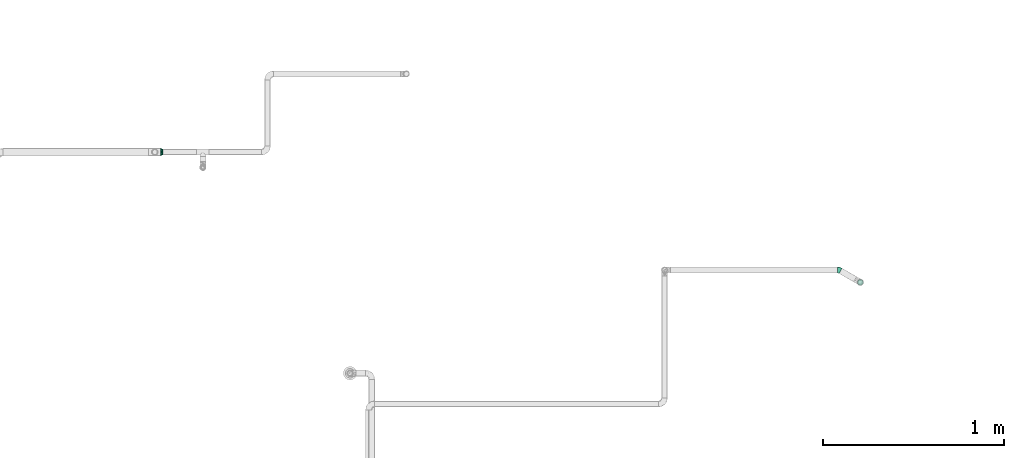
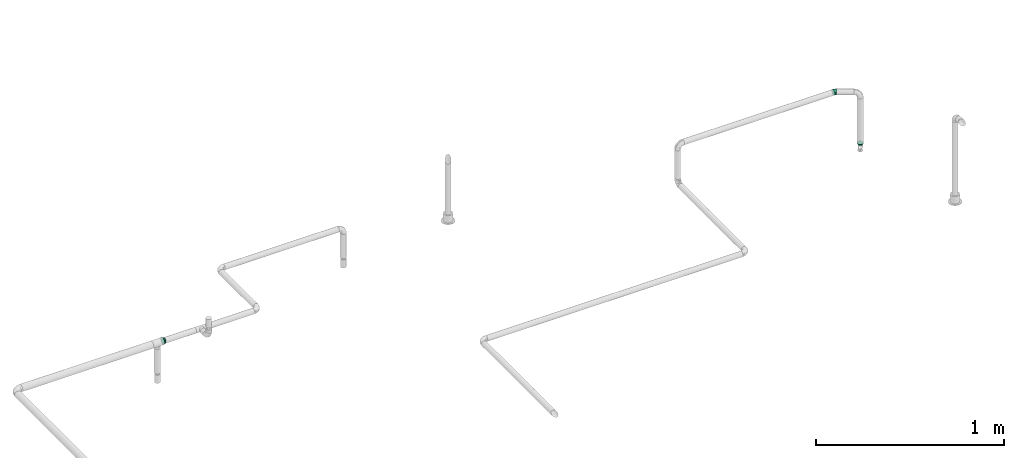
# One storey, part 92 of 95: 3 flow fittings.
"""IFC2X3 building model written with IfcOpenShell, lengths in millimetres."""

import ifcopenshell
import ifcopenshell.guid

model = None  # the IFC model being written
_history = None  # IfcOwnerHistory: only IFC2X3 demands one
_inside = {}  # id of a spatial element -> (the spatial element, [elements in it])
_under = {}  # id of a project, library or spatial element -> (it, [spatial elements below it])
_declared = {}  # id of a project -> (the project, [libraries it declares])
_typed = {}  # id of a type object -> (the type object, [elements of that type])
_made_of = {}  # id of a material, layer set ... -> (it, [elements and type objects made of it])


def new_model(schema):
    """Start an empty IFC model of exactly this schema.

    Asked for "IFC4X3", IfcOpenShell would pick the latest addendum, in which some entities
    have other attributes; the version numbers below select the first issue.
    IFC2X3 requires an IfcOwnerHistory on every rooted entity: one is made here for all.
    """
    global model, _history
    if schema == "IFC4X3":
        model = ifcopenshell.file(schema_version=(4, 3, 0, 0))
    else:
        model = ifcopenshell.file(schema=schema)
    _inside.clear()
    _under.clear()
    _declared.clear()
    _typed.clear()
    _made_of.clear()
    _history = None
    if model.schema == "IFC2X3":
        org = make("IfcOrganization", Name="unknown")
        user = make(
            "IfcPersonAndOrganization",
            ThePerson=make("IfcPerson", FamilyName="unknown"),
            TheOrganization=org,
        )
        app = make(
            "IfcApplication",
            ApplicationDeveloper=org,
            Version="unknown",
            ApplicationFullName="unknown",
            ApplicationIdentifier="unknown",
        )
        _history = make(
            "IfcOwnerHistory",
            OwningUser=user,
            OwningApplication=app,
            ChangeAction="ADDED",
            CreationDate=0,
        )
    return model


def make(cls, **values):
    """One entity of the class cls with the attributes given. An attribute that is None is left unset."""
    return model.create_entity(
        cls, **{name: value for name, value in values.items() if value is not None}
    )


def entity(cls, *values):
    """Any entity or typed value of the class cls, its attributes in the order of the schema. None: left unset."""
    e = model.create_entity(cls)
    for i, value in enumerate(values):
        if value is not None:
            e[i] = value
    return e


def rooted(cls, **values):
    """An entity with a GlobalId (a new one), such as an element, a storey or a relation."""
    return make(cls, GlobalId=ifcopenshell.guid.new(), OwnerHistory=_history, **values)


def si_unit(unit_type, name, prefix=None):
    """IfcSIUnit, for example si_unit("LENGTHUNIT", "METRE", prefix="MILLI")."""
    return make("IfcSIUnit", UnitType=unit_type, Prefix=prefix, Name=name)


def converted_unit(unit_type, name, factor, base, dimensions=None, offset=None):
    """IfcConversionBasedUnit, such as the inch: factor (a typed value) times the base unit."""
    return make(
        "IfcConversionBasedUnit"
        if offset is None
        else "IfcConversionBasedUnitWithOffset",
        ConversionOffset=offset,
        Dimensions=None
        if dimensions is None
        else entity("IfcDimensionalExponents", *dimensions),
        UnitType=unit_type,
        Name=name,
        ConversionFactor=make(
            "IfcMeasureWithUnit", ValueComponent=factor, UnitComponent=base
        ),
    )


def derived_unit(unit_type, elements):
    """IfcDerivedUnit: a product of units, each with its exponent."""
    return make(
        "IfcDerivedUnit",
        Elements=[
            make("IfcDerivedUnitElement", Unit=unit, Exponent=power)
            for unit, power in elements
        ],
        UnitType=unit_type,
    )


def assignment(units):
    """IfcUnitAssignment: the units of a project."""
    return None if units is None else make("IfcUnitAssignment", Units=units)


def point(xyz):
    """IfcCartesianPoint."""
    return None if xyz is None else make("IfcCartesianPoint", Coordinates=xyz)


def direction(xyz):
    """IfcDirection."""
    return None if xyz is None else make("IfcDirection", DirectionRatios=xyz)


def frame(location, z_axis=None, x_axis=None):
    """IfcAxis2Placement3D, a coordinate frame: its origin and axes. An axis left out is left unset."""
    return make(
        "IfcAxis2Placement3D",
        Location=point(location),
        Axis=direction(z_axis),
        RefDirection=direction(x_axis),
    )


def origin_with_axes():
    """The frame at (0, 0, 0) with the z axis (0, 0, 1) and the x axis (1, 0, 0) written out."""
    return frame((0.0, 0.0, 0.0), z_axis=(0.0, 0.0, 1.0), x_axis=(1.0, 0.0, 0.0))


def place(relative_to, where):
    """IfcLocalPlacement: puts the frame where relative to a parent placement (None: the world)."""
    return make(
        "IfcLocalPlacement", PlacementRelTo=relative_to, RelativePlacement=where
    )


def context(
    kind, dimensions, precision=None, world=None, true_north=None, identifier=None
):
    """IfcGeometricRepresentationContext, for example the 3D "Model" context."""
    return make(
        "IfcGeometricRepresentationContext",
        ContextIdentifier=identifier,
        ContextType=kind,
        CoordinateSpaceDimension=dimensions,
        Precision=precision,
        WorldCoordinateSystem=world,
        TrueNorth=true_north,
    )


def subcontext(parent, identifier, kind, view, scale=None):
    """IfcGeometricRepresentationSubContext, for example "Body" below "Model"."""
    return make(
        "IfcGeometricRepresentationSubContext",
        ContextIdentifier=identifier,
        ContextType=kind,
        ParentContext=parent,
        TargetScale=scale,
        TargetView=view,
    )


def project(units=None, contexts=None):
    """IfcProject with its units and contexts."""
    return rooted(
        "IfcProject",
        Name="project",
        RepresentationContexts=contexts,
        UnitsInContext=assignment(units),
    )


def spatial(cls, under=None, at=None, **own):
    """A site, building, storey or space (cls), placed at a placement, below another one or the project."""
    s = rooted(cls, ObjectPlacement=at, **own)
    if under is not None:
        _under.setdefault(under.id(), (under, []))[1].append(s)
    return s


def faces_of(points, faces, orient=None, outer=None):
    """IfcFace entities. A face is a list of loops; a loop is a list of indices into points, from 0.

    orient and outer hold one flag for each loop. By default every Orientation is true, the
    first loop of a face is its IfcFaceOuterBound and the others are IfcFaceBound.
    """
    made = []
    for i, loops in enumerate(faces):
        bounds = []
        for j, loop in enumerate(loops):
            is_outer = j == 0 if outer is None else outer[i][j]
            bounds.append(
                make(
                    "IfcFaceOuterBound" if is_outer else "IfcFaceBound",
                    Bound=make("IfcPolyLoop", Polygon=[points[k] for k in loop]),
                    Orientation=True if orient is None else orient[i][j],
                )
            )
        made.append(make("IfcFace", Bounds=bounds))
    return made


def open_shell(faces, orient=None, outer=None):
    """The faces of one IfcOpenShell. surface_model builds it on its shared points."""
    return ("IfcOpenShell", faces, orient, outer)


def surface_model(cls, points, shells):
    """IfcFaceBasedSurfaceModel or IfcShellBasedSurfaceModel (cls): surfaces that need not close."""
    shared = [point(p) for p in points]
    made = [make(c, CfsFaces=faces_of(shared, fs, o, b)) for c, fs, o, b in shells]
    if cls == "IfcFaceBasedSurfaceModel":
        return make(cls, FbsmFaces=made)
    return make(cls, SbsmBoundary=made)


def shape(context_of_items, identifier, shape_type, items):
    """IfcShapeRepresentation: the items that make up one representation, for example the "Body"."""
    return make(
        "IfcShapeRepresentation",
        ContextOfItems=context_of_items,
        RepresentationIdentifier=identifier,
        RepresentationType=shape_type,
        Items=items,
    )


def source(mapping_origin, context_of_items, identifier, shape_type, items):
    """IfcRepresentationMap: a shape defined once, which mapped items show again and again."""
    return make(
        "IfcRepresentationMap",
        MappingOrigin=mapping_origin,
        MappedRepresentation=shape(context_of_items, identifier, shape_type, items),
    )


def transform(
    local_origin,
    x_axis=None,
    y_axis=None,
    z_axis=None,
    scale=None,
    scale2=None,
    scale3=None,
    uniform=True,
):
    """IfcCartesianTransformationOperator3D, or its non-uniform kind. x_axis, y_axis, z_axis: its Axis1, 2, 3."""
    if uniform:
        return make(
            "IfcCartesianTransformationOperator3D",
            Axis1=direction(x_axis),
            Axis2=direction(y_axis),
            LocalOrigin=point(local_origin),
            Scale=scale,
            Axis3=direction(z_axis),
        )
    return make(
        "IfcCartesianTransformationOperator3DnonUniform",
        Axis1=direction(x_axis),
        Axis2=direction(y_axis),
        LocalOrigin=point(local_origin),
        Scale=scale,
        Axis3=direction(z_axis),
        Scale2=scale2,
        Scale3=scale3,
    )


def mapped(mapping_source, mapping_target):
    """IfcMappedItem: shows the shape of a source again, moved by a transform."""
    return make(
        "IfcMappedItem", MappingSource=mapping_source, MappingTarget=mapping_target
    )


def made_of(thing, what):
    """Note that an element or type object is made of a material, layer set ...; save() writes the relation."""
    if what is not None:
        _made_of.setdefault(what.id(), (what, []))[1].append(thing)
    return thing


def type_object(cls, material=None, **own):
    """A type object (cls), such as IfcWallType, which elements share."""
    return made_of(rooted(cls, **own), material)


def element(
    cls,
    number,
    at=None,
    inside=None,
    cuts=None,
    type_object=None,
    material=None,
    context=None,
    identifier="Body",
    shape_type=None,
    held_by="IfcProductDefinitionShape",
    body=None,
    shapes=None,
    **own,
):
    """One element of the class cls, such as IfcWall. Its Tag is "e" and its number.

    at: its placement. inside: the storey or other place that contains it. cuts: it is an
    opening in that element (IfcRelVoidsElement). A single representation is given by context,
    identifier, shape_type and body (its items); several are given by shapes. held_by: the class
    of the entity that holds the representations. save() writes the other relations.
    """
    e = rooted(cls, Tag="e%d" % number, ObjectPlacement=at, **own)
    if body is not None:
        shapes = [shape(context, identifier, shape_type, body)]
    if shapes is not None:
        e.Representation = make(held_by, Representations=shapes)
    if inside is not None:
        _inside.setdefault(inside.id(), (inside, []))[1].append(e)
    if cuts is not None:
        rooted(
            "IfcRelVoidsElement", RelatingBuildingElement=cuts, RelatedOpeningElement=e
        )
    if type_object is not None:
        _typed.setdefault(type_object.id(), (type_object, []))[1].append(e)
    return made_of(e, material)


def aggregate(whole, parts):
    """IfcRelAggregates: a whole, such as a stair, and the parts it consists of."""
    return rooted("IfcRelAggregates", RelatingObject=whole, RelatedObjects=parts)


def save(model, path):
    """Write the relations noted so far, then the file.

    IfcRelAggregates (storeys below a building ...), IfcRelContainedInSpatialStructure (elements
    in a storey), IfcRelDefinesByType, IfcRelAssociatesMaterial and IfcRelDeclares: one each for
    every whole, place, type object, material and project.
    """
    for whole, parts in _under.values():
        aggregate(whole, parts)
    for where, things in _inside.values():
        rooted(
            "IfcRelContainedInSpatialStructure",
            RelatedElements=things,
            RelatingStructure=where,
        )
    for kind, things in _typed.values():
        rooted("IfcRelDefinesByType", RelatedObjects=things, RelatingType=kind)
    for what, things in _made_of.values():
        rooted("IfcRelAssociatesMaterial", RelatedObjects=things, RelatingMaterial=what)
    for by, libraries in _declared.values():
        rooted("IfcRelDeclares", RelatingContext=by, RelatedDefinitions=libraries)
    model.write(path)


model = new_model("IFC2X3")

# Units and contexts
model_context = context("Model", 3, precision=0.01, world=frame((0.0, 4.29681676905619e-09, 0.0)), true_north=direction((4.01073788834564e-13, 1.0)))
plan_context = context("Plan", 3, precision=0.01, world=frame((0.0, 4.29681676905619e-09, 0.0)), true_north=direction((4.01073788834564e-13, 1.0)))
body_context = subcontext(model_context, "Body", "Model", "MODEL_VIEW")
ifc_project = project(units=[converted_unit("PLANEANGLEUNIT", "DEGREE", entity("IfcPositiveLengthMeasure", 0.0174532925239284), si_unit("PLANEANGLEUNIT", "RADIAN"), dimensions=[0, 0, 0, 0, 0, 0, 0]), si_unit("AREAUNIT", "SQUARE_METRE"), si_unit("LENGTHUNIT", "METRE", prefix="MILLI"), si_unit("MASSUNIT", "GRAM", prefix="KILO"), si_unit("POWERUNIT", "WATT"), si_unit("PRESSUREUNIT", "PASCAL"), si_unit("FORCEUNIT", "NEWTON", prefix="KILO"), si_unit("ELECTRICVOLTAGEUNIT", "VOLT"), si_unit("ELECTRICCURRENTUNIT", "AMPERE"), si_unit("THERMODYNAMICTEMPERATUREUNIT", "DEGREE_CELSIUS"), si_unit("TIMEUNIT", "SECOND"), si_unit("VOLUMEUNIT", "CUBIC_METRE"), derived_unit("LINEARVELOCITYUNIT", [(si_unit("LENGTHUNIT", "METRE"), 1), (si_unit("TIMEUNIT", "SECOND"), -1)]), derived_unit("VOLUMETRICFLOWRATEUNIT", [(si_unit("VOLUMEUNIT", "CUBIC_METRE"), 1), (si_unit("TIMEUNIT", "SECOND"), -1)]), derived_unit("THERMALTRANSMITTANCEUNIT", [(si_unit("POWERUNIT", "WATT"), 1), (si_unit("THERMODYNAMICTEMPERATUREUNIT", "KELVIN"), -1), (si_unit("AREAUNIT", "SQUARE_METRE"), -1)]), derived_unit("SOUNDPRESSUREUNIT", [(si_unit("PRESSUREUNIT", "PASCAL"), 1)])], contexts=[model_context, plan_context])

# Site, building, storey
site_placement = place(None, frame((0.0, -4.29681676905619e-09, 0.0), z_axis=(0.0, 0.0, 1.0), x_axis=(1.0, 0.0, 0.0)))
site = spatial("IfcSite", under=ifc_project, at=site_placement, CompositionType="ELEMENT")
building_placement = place(site_placement, frame((0.0, 4.29681676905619e-09, 0.0), z_axis=(0.0, 0.0, 1.0), x_axis=(1.0, 0.0, 0.0)))
building = spatial("IfcBuilding", under=site, at=building_placement, Name="mc-building", CompositionType="ELEMENT")
storey_placement = place(building_placement, frame((0.0, 0.0, 210900.0), z_axis=(0.0, 0.0, 1.0), x_axis=(1.0, 0.0, 0.0)))
storey = spatial("IfcBuildingStorey", under=building, at=storey_placement, Name="Nivå F", CompositionType="ELEMENT", Elevation=210900.0)

# Flow fittings
pipe_fitting_type_1 = type_object("IfcPipeFittingType", Name="magi_pipe_fe_reducer_centric_short_NOR", PredefinedType="TRANSITION")
shared_shape_1 = source(origin_with_axes(), body_context, "Body", "SurfaceModel", [
    surface_model("IfcShellBasedSurfaceModel", [(10.6, -11.9501, -11.9501), (10.6, -8.45, -14.63583), (10.6, -4.37404, -16.32415), (10.6, 8.45, -14.63583), (10.6, 16.9, 0.0), (10.6, -14.63583, -8.45), (10.6, -16.32415, -4.37404), (10.6, -4.37404, 16.32415), (10.6, 4.37404, -16.32415), (10.6, 0.0, -16.9), (10.6, 14.63583, -8.45), (10.6, 16.32415, -4.37404), (10.6, 11.9501, -11.9501), (10.6, -16.32415, 4.37404), (10.6, -16.9, 0.0), (10.6, -11.9501, 11.9501), (10.6, -14.63583, 8.45), (10.6, -8.45, 14.63583), (10.6, 0.0, 16.9), (10.6, 16.32415, 4.37404), (10.6, 14.63583, 8.45), (10.6, 11.9501, 11.9501), (10.6, 8.45, 14.63583), (10.6, 4.37404, 16.32415), (8.6, 0.0, 16.9), (8.6, 14.63583, 8.45), (8.6, -4.37404, 16.32415), (8.6, -8.45, 14.63583), (8.6, -16.32415, 4.37404), (8.6, -14.63583, 8.45), (8.6, -11.9501, 11.9501), (8.6, 11.9501, 11.9501), (8.6, 8.45, 14.63583), (8.6, 4.37404, 16.32415), (8.6, 16.32415, 4.37404), (8.6, 16.9, 0.0), (8.6, 16.32415, -4.37404), (8.6, 8.45, -14.63583), (8.6, -11.9501, -11.9501), (8.6, -16.32415, -4.37404), (8.6, -14.63583, -8.45), (8.6, -4.37404, -16.32415), (8.6, -8.45, -14.63583), (8.6, 14.63583, -8.45), (8.6, 11.9501, -11.9501), (8.6, 4.37404, -16.32415), (8.6, 0.0, -16.9), (8.6, -16.9, 0.0), (-2.0, -10.6, 18.35974), (-2.0, -5.48696, 20.47763), (-2.0, 0.0, 21.2), (-2.0, -14.99066, 14.99066), (-2.0, -20.47763, 5.48696), (-2.0, -18.35974, 10.6), (-2.0, 14.99066, -14.99066), (-2.0, 21.2, 0.0), (-2.0, 10.6, 18.35974), (-2.0, 14.99066, 14.99066), (-2.0, 5.48696, 20.47763), (-2.0, 20.47763, 5.48696), (-2.0, 18.35974, 10.6), (-2.0, -10.6, -18.35974), (-2.0, -20.47763, -5.48696), (-2.0, -18.35974, -10.6), (-2.0, -14.99066, -14.99066), (-2.0, 0.0, -21.2), (-2.0, -5.48696, -20.47763), (-2.0, 20.47763, -5.48696), (-2.0, 18.35974, -10.6), (-2.0, 5.48696, -20.47763), (-2.0, 10.6, -18.35974), (-2.0, -21.2, 0.0), (0.0, -5.48696, -20.47763), (0.0, 0.0, -21.2), (0.0, -10.6, -18.35974), (0.0, -14.99066, -14.99066), (0.0, -20.47763, -5.48696), (0.0, 21.2, 0.0), (0.0, -18.35974, -10.6), (0.0, 14.99066, -14.99066), (0.0, 5.48696, -20.47763), (0.0, 10.6, -18.35974), (0.0, 20.47763, -5.48696), (0.0, 18.35974, -10.6), (0.0, -21.2, 0.0), (0.0, -14.99066, 14.99066), (0.0, -18.35974, 10.6), (0.0, -20.47763, 5.48696), (0.0, 0.0, 21.2), (0.0, -5.48696, 20.47763), (0.0, -10.6, 18.35974), (0.0, 14.99066, 14.99066), (0.0, 20.47763, 5.48696), (0.0, 18.35974, 10.6), (0.0, 10.6, 18.35974), (0.0, 5.48696, 20.47763), (0.0, 17.15116, 12.46105), (0.0, -17.15116, 12.46105), (0.0, 6.55116, 20.1624), (0.0, -6.55116, 20.1624), (0.0, 6.55116, -20.1624), (0.0, -6.55116, -20.1624), (0.0, 17.15116, -12.46105), (0.0, -17.15116, -12.46105), (8.6, 13.18758, -8.96258), (8.6, 2.98753, -15.66253), (0.0, 0.0, -20.1624), (0.0, 18.16337, -9.34579), (0.0, 19.17558, -6.23052), (8.6, 14.42505, -5.97505), (8.6, -5.97505, -14.42505), (8.6, -8.96258, -13.18758), (0.0, -11.85116, -16.31172), (8.6, -2.98753, -15.66253), (8.6, -13.18758, -8.96258), (8.6, -14.42505, -5.97505), (0.0, -19.17558, -6.23052), (8.6, -15.66253, -2.98753), (8.6, 15.66253, -2.98753), (0.0, 11.85116, -16.31172), (8.6, 8.96258, -13.18758), (8.6, 5.97505, -14.42505), (8.6, -13.18758, 8.96258), (8.6, -2.98753, 15.66253), (0.0, 0.0, 20.1624), (0.0, -18.16337, 9.34579), (0.0, -19.17558, 6.23052), (8.6, -14.42505, 5.97505), (8.6, 5.97505, 14.42505), (8.6, 8.96258, 13.18758), (0.0, 11.85116, 16.31172), (8.6, 2.98753, 15.66253), (8.6, 13.18758, 8.96258), (8.6, 14.42505, 5.97505), (0.0, 19.17558, 6.23052), (8.6, 15.66253, 2.98753), (8.6, -15.66253, 2.98753), (0.0, -11.85116, 16.31172), (8.6, -8.96258, 13.18758), (8.6, -5.97505, 14.42505)], [open_shell([[[0, 1, 2]], [[0, 2, 3]], [[3, 4, 0]], [[5, 0, 6]], [[0, 7, 6]], [[8, 3, 9]], [[3, 2, 9]], [[10, 11, 12]], [[3, 12, 11]], [[11, 4, 3]], [[13, 14, 6]], [[15, 16, 13]], [[7, 15, 13]], [[0, 4, 7]], [[17, 15, 7]], [[18, 7, 4]], [[19, 20, 18]], [[18, 4, 19]], [[21, 22, 20]], [[22, 18, 20]], [[23, 18, 22]], [[13, 6, 7]], [[24, 25, 26]], [[27, 26, 28]], [[28, 29, 30]], [[27, 28, 30]], [[28, 26, 25]], [[31, 25, 32]], [[24, 33, 32]], [[32, 25, 24]], [[28, 25, 34]], [[35, 36, 34]], [[37, 28, 34]], [[38, 39, 28]], [[40, 39, 38]], [[41, 42, 38]], [[38, 28, 37]], [[38, 37, 41]], [[43, 44, 36]], [[37, 36, 44]], [[45, 46, 37]], [[37, 34, 36]], [[37, 46, 41]], [[47, 28, 39]], [[35, 11, 36]], [[36, 10, 43]], [[37, 44, 3]], [[12, 44, 43]], [[45, 37, 8]], [[11, 10, 36]], [[35, 4, 11]], [[37, 3, 8]], [[3, 44, 12]], [[43, 10, 12]], [[45, 8, 9]], [[9, 46, 45]], [[46, 2, 41]], [[41, 1, 42]], [[40, 38, 5]], [[0, 38, 42]], [[39, 40, 6]], [[1, 0, 42]], [[41, 2, 1]], [[39, 6, 14]], [[6, 40, 5]], [[38, 0, 5]], [[39, 14, 47]], [[9, 2, 46]], [[47, 13, 28]], [[28, 16, 29]], [[27, 30, 17]], [[15, 30, 29]], [[26, 27, 7]], [[13, 16, 28]], [[47, 14, 13]], [[27, 17, 7]], [[17, 30, 15]], [[29, 16, 15]], [[26, 7, 18]], [[18, 24, 26]], [[24, 23, 33]], [[33, 22, 32]], [[25, 31, 20]], [[21, 31, 32]], [[34, 25, 19]], [[22, 21, 32]], [[33, 23, 22]], [[34, 19, 4]], [[19, 25, 20]], [[31, 21, 20]], [[34, 4, 35]], [[18, 23, 24]], [[48, 49, 50]], [[51, 48, 50]], [[52, 53, 51]], [[50, 52, 51]], [[54, 50, 55]], [[56, 57, 58]], [[57, 50, 58]], [[59, 55, 60]], [[50, 57, 60]], [[50, 60, 55]], [[54, 52, 50]], [[61, 62, 52]], [[63, 62, 64]], [[61, 52, 54]], [[64, 62, 61]], [[61, 65, 66]], [[67, 68, 55]], [[55, 68, 54]], [[69, 65, 70]], [[61, 54, 70]], [[61, 70, 65]], [[71, 52, 62]], [[72, 73, 74]], [[75, 74, 76]], [[77, 76, 74]], [[78, 75, 76]], [[74, 79, 77]], [[80, 81, 73]], [[81, 74, 73]], [[82, 77, 83]], [[79, 74, 81]], [[77, 79, 83]], [[76, 77, 84]], [[85, 86, 87]], [[88, 85, 87]], [[88, 89, 90]], [[85, 88, 90]], [[91, 88, 87]], [[92, 93, 77]], [[91, 77, 93]], [[94, 95, 91]], [[87, 77, 91]], [[91, 95, 88]], [[84, 77, 87]], [[55, 82, 67]], [[67, 83, 68]], [[70, 54, 81]], [[79, 54, 68]], [[69, 70, 80]], [[82, 83, 67]], [[55, 77, 82]], [[70, 81, 80]], [[81, 54, 79]], [[68, 83, 79]], [[69, 80, 73]], [[73, 65, 69]], [[65, 72, 66]], [[66, 74, 61]], [[63, 64, 78]], [[75, 64, 61]], [[62, 63, 76]], [[74, 75, 61]], [[66, 72, 74]], [[62, 76, 84]], [[76, 63, 78]], [[64, 75, 78]], [[62, 84, 71]], [[73, 72, 65]], [[71, 87, 52]], [[52, 86, 53]], [[48, 51, 90]], [[85, 51, 53]], [[49, 48, 89]], [[87, 86, 52]], [[71, 84, 87]], [[48, 90, 89]], [[90, 51, 85]], [[53, 86, 85]], [[49, 89, 88]], [[88, 50, 49]], [[50, 95, 58]], [[58, 94, 56]], [[60, 57, 93]], [[91, 57, 56]], [[59, 60, 92]], [[94, 91, 56]], [[58, 95, 94]], [[59, 92, 77]], [[92, 60, 93]], [[57, 91, 93]], [[59, 77, 55]], [[88, 95, 50]], [[30, 35, 31]], [[31, 24, 30]], [[30, 38, 35]], [[46, 35, 38]], [[38, 30, 47]], [[44, 35, 46]], [[96, 84, 97]], [[98, 96, 99]], [[97, 99, 96]], [[96, 100, 84]], [[84, 100, 101]], [[96, 77, 102]], [[102, 100, 96]], [[84, 101, 103]], [[104, 44, 102]], [[100, 105, 106]], [[107, 108, 109]], [[110, 111, 112]], [[38, 103, 112]], [[112, 101, 110]], [[46, 113, 106]], [[114, 115, 103]], [[106, 113, 101]], [[116, 117, 84]], [[35, 118, 77]], [[119, 102, 44]], [[120, 121, 119]], [[118, 108, 77]], [[113, 110, 101]], [[100, 121, 105]], [[116, 103, 115]], [[46, 106, 105]], [[103, 38, 114]], [[47, 84, 117]], [[108, 118, 109]], [[107, 104, 102]], [[107, 109, 104]], [[111, 38, 112]], [[100, 119, 121]], [[119, 44, 120]], [[116, 115, 117]], [[122, 30, 97]], [[99, 123, 124]], [[125, 126, 127]], [[128, 129, 130]], [[31, 96, 130]], [[130, 98, 128]], [[24, 131, 124]], [[132, 133, 96]], [[124, 131, 98]], [[134, 135, 77]], [[47, 136, 84]], [[137, 97, 30]], [[138, 139, 137]], [[136, 126, 84]], [[131, 128, 98]], [[99, 139, 123]], [[134, 96, 133]], [[24, 124, 123]], [[96, 31, 132]], [[35, 77, 135]], [[126, 136, 127]], [[125, 122, 97]], [[125, 127, 122]], [[129, 31, 130]], [[99, 137, 139]], [[137, 30, 138]], [[134, 133, 135]]])]),
])
flow_fitting_1_placement = place(storey_placement, frame((521633.8, 456820.05824, 2600.0), z_axis=(0.0, 0.0, 1.0), x_axis=(1.0, 0.0, 0.0)))
element("IfcFlowFitting", 1, at=flow_fitting_1_placement, inside=storey, type_object=pipe_fitting_type_1, Name="magi_pipe_fe_reducer_centric_short_NOR", context=body_context, shape_type="MappedRepresentation", body=[
    mapped(shared_shape_1, transform((0.0, 0.0, 0.0), scale=1.0)),
])
pipe_fitting_type_2 = type_object("IfcPipeFittingType", Name="magi_pipe_fe_elbow_short_001", PredefinedType="BEND")
shared_shape_2 = source(origin_with_axes(), body_context, "Body", "SurfaceModel", [
    surface_model("IfcShellBasedSurfaceModel", [(-9.05668, 4.37404, -16.32415), (-9.05668, 0.0, -16.9), (-9.05668, 11.9501, -11.9501), (-9.05668, 8.45, -14.63583), (-9.05668, 16.32415, -4.37404), (-9.05668, 14.63583, -8.45), (-9.05668, -14.63583, -8.45), (-9.05668, -16.32415, -4.37404), (-9.05668, -8.45, 14.63583), (-9.05668, -11.9501, -11.9501), (-9.05668, -8.45, -14.63583), (-9.05668, -4.37404, -16.32415), (-9.05668, -16.9, 0.0), (-9.05668, -16.32415, 4.37404), (-9.05668, 11.9501, 11.9501), (-9.05668, 16.32415, 4.37404), (-9.05668, 14.63583, 8.45), (-9.05668, 4.37404, 16.32415), (-9.05668, 8.45, 14.63583), (-9.05668, -14.63583, 8.45), (-9.05668, -11.9501, 11.9501), (-9.05668, -4.37404, 16.32415), (-9.05668, 0.0, 16.9), (-9.05668, 16.9, 0.0), (1.86826, 14.87744, -11.9501), (7.84332, 4.52834, -16.9), (5.6563, 8.31637, -16.32415), (3.61832, 11.84626, -14.63583), (13.81837, -5.82075, 11.9501), (13.81837, -5.82075, -11.9501), (0.5254, 17.20334, -8.45), (-0.31876, 18.66547, 4.37404), (12.06832, -2.78957, -14.63583), (10.03034, 0.74031, -16.32415), (16.00539, -9.60878, -4.37404), (15.16123, -8.14666, -8.45), (16.29332, -10.10749, 0.0), (-0.31876, 18.66547, -4.37404), (0.5254, 17.20334, 8.45), (7.84332, 4.52834, 16.9), (1.86826, 14.87744, 11.9501), (3.61832, 11.84626, 14.63583), (5.6563, 8.31637, 16.32415), (15.16123, -8.14666, 8.45), (16.00539, -9.60878, 4.37404), (12.06832, -2.78957, 14.63583), (10.03034, 0.74031, 16.32415), (-0.60668, 19.16417, 0.0), (3.23521, -12.07397, 9.90621), (-0.48789, -9.71244, 13.20405), (1.46394, -5.46351, 15.45014), (-1.16447, -1.65592, 16.71051), (-0.25358, -14.95401, 6.14714), (0.04142, -15.78331, 3.11142), (6.38384, -14.18247, 3.14056), (-0.78874, 2.94362, 16.79787), (-3.7372, 13.94741, 10.49403), (-2.91102, 10.86407, 13.58335), (7.22684, -7.3825, 13.25433), (-1.86952, 7.12082, 15.73356), (-4.68264, 17.47585, 0.0), (4.06544, -15.17244, 0.0), (8.50881, -13.33194, 0.0), (-0.70288, -15.8002, 0.0), (8.57421, -12.48464, 6.18145), (0.36072, -1.34624, -16.70097), (-1.44643, 2.8041, -16.79471), (3.63907, -4.72834, -15.48641), (-3.7372, 13.94741, -10.49403), (3.06368, -14.28622, -6.02326), (-2.97781, -15.70986, -5.19525), (-1.78766, -13.01495, -10.06499), (-2.91102, 10.86407, -13.58335), (9.6373, -11.74228, -6.8945), (8.7907, -13.22114, -3.68077), (6.65872, -10.92984, -10.01853), (-1.93995, -7.69395, -14.72151), (2.44469, -9.12372, -13.13183), (-1.97602, 7.09389, -15.73298), (1.57235, -15.49787, -3.00494), (-0.70289, -15.8002, 0.0)], [open_shell([[[0, 1, 2]], [[3, 0, 2]], [[4, 5, 2]], [[6, 2, 1]], [[2, 7, 8]], [[9, 6, 10]], [[1, 11, 10]], [[1, 10, 6]], [[6, 7, 2]], [[12, 13, 7]], [[4, 2, 14]], [[14, 15, 4]], [[16, 15, 14]], [[17, 18, 14]], [[2, 8, 14]], [[17, 14, 8]], [[19, 20, 13]], [[13, 20, 7]], [[21, 22, 8]], [[20, 8, 7]], [[8, 22, 17]], [[23, 4, 15]], [[24, 25, 26]], [[24, 26, 27]], [[28, 29, 24]], [[24, 29, 25]], [[30, 31, 24]], [[25, 32, 33]], [[25, 29, 32]], [[29, 34, 35]], [[29, 28, 34]], [[34, 28, 36]], [[37, 31, 30]], [[28, 24, 31]], [[38, 39, 31]], [[40, 41, 42]], [[38, 40, 39]], [[40, 42, 39]], [[36, 43, 44]], [[28, 43, 36]], [[45, 39, 46]], [[39, 45, 28]], [[31, 39, 28]], [[37, 47, 31]], [[19, 48, 20]], [[49, 50, 8]], [[8, 20, 49]], [[43, 28, 48]], [[22, 21, 51]], [[21, 8, 50]], [[52, 53, 54]], [[51, 55, 22]], [[22, 55, 17]], [[39, 42, 55]], [[48, 19, 52]], [[45, 46, 50]], [[14, 56, 16]], [[57, 14, 18]], [[58, 48, 28]], [[20, 48, 49]], [[17, 59, 18]], [[60, 15, 31]], [[19, 13, 52]], [[60, 23, 15]], [[31, 15, 16]], [[21, 50, 51]], [[17, 55, 59]], [[57, 59, 41]], [[53, 61, 54]], [[62, 54, 61]], [[51, 39, 55]], [[45, 58, 28]], [[12, 63, 53]], [[51, 46, 39]], [[48, 58, 49]], [[52, 64, 48]], [[40, 38, 56]], [[49, 58, 50]], [[50, 58, 45]], [[36, 44, 62]], [[13, 53, 52]], [[57, 56, 14]], [[38, 31, 16]], [[47, 60, 31]], [[54, 44, 64]], [[48, 64, 43]], [[44, 54, 62]], [[42, 59, 55]], [[41, 40, 57]], [[40, 56, 57]], [[12, 53, 13]], [[16, 56, 38]], [[42, 41, 59]], [[59, 57, 18]], [[52, 54, 64]], [[43, 64, 44]], [[61, 53, 63]], [[46, 51, 50]], [[1, 65, 11]], [[25, 66, 26]], [[33, 32, 67]], [[65, 1, 66]], [[68, 2, 5]], [[69, 70, 71]], [[2, 68, 72]], [[73, 34, 74]], [[37, 5, 4]], [[29, 35, 75]], [[76, 67, 77]], [[0, 78, 66]], [[79, 70, 69]], [[6, 70, 7]], [[79, 7, 70]], [[71, 70, 6]], [[9, 10, 76]], [[26, 78, 27]], [[6, 9, 71]], [[67, 76, 11]], [[78, 72, 27]], [[72, 68, 24]], [[77, 71, 9]], [[4, 23, 60]], [[36, 74, 34]], [[60, 47, 37]], [[30, 68, 5]], [[73, 75, 35]], [[37, 30, 5]], [[68, 30, 24]], [[71, 77, 75]], [[26, 66, 78]], [[11, 65, 67]], [[1, 0, 66]], [[2, 72, 3]], [[78, 0, 3]], [[65, 66, 25]], [[33, 67, 65]], [[32, 77, 67]], [[72, 78, 3]], [[77, 32, 29]], [[74, 79, 69]], [[69, 71, 75]], [[79, 74, 61]], [[36, 62, 74]], [[29, 75, 77]], [[24, 27, 72]], [[33, 65, 25]], [[74, 62, 61]], [[4, 60, 37]], [[73, 74, 69]], [[75, 73, 69]], [[34, 73, 35]], [[9, 76, 77]], [[11, 76, 10]], [[7, 79, 80]], [[80, 12, 7]], [[80, 79, 61]]])]),
])
flow_fitting_2_placement = place(storey_placement, frame((525380.97009, 456168.04949, 3300.0), z_axis=(0.0, 0.0, 1.0), x_axis=(-0.866025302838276, 0.500000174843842, 0.0)))
element("IfcFlowFitting", 2, at=flow_fitting_2_placement, inside=storey, type_object=pipe_fitting_type_2, Name="magi_pipe_fe_elbow_short_001", context=body_context, shape_type="MappedRepresentation", body=[
    mapped(shared_shape_2, transform((0.0, 0.0, 0.0), scale=1.0)),
])
shared_shape_3 = source(origin_with_axes(), body_context, "Body", "SurfaceModel", [
    surface_model("IfcShellBasedSurfaceModel", [(-2.0, -9.47523, 9.47523), (-2.0, 0.0, 13.4), (-2.0, 3.46818, 12.94341), (-2.0, 6.7, 11.60474), (-2.0, 9.47523, 9.47523), (-2.0, 11.60474, 6.7), (-2.0, 12.94341, 3.46818), (-2.0, -3.46818, 12.94341), (-2.0, -6.7, 11.60474), (-2.0, -12.94341, 3.46818), (-2.0, -11.60474, 6.7), (-2.0, -6.7, -11.60474), (-2.0, -12.94341, -3.46818), (-2.0, -13.4, 0.0), (-2.0, 12.94341, -3.46818), (-2.0, 6.7, -11.60474), (-2.0, 9.47523, -9.47523), (-2.0, 11.60474, -6.7), (-2.0, 3.46818, -12.94341), (-2.0, 0.0, -13.4), (-2.0, -9.47523, -9.47523), (-2.0, -11.60474, -6.7), (-2.0, -3.46818, -12.94341), (-2.0, 13.4, 0.0), (0.0, 12.94341, -3.46818), (0.0, 3.46818, -12.94341), (0.0, 6.7, -11.60474), (0.0, 11.60474, -6.7), (0.0, 9.47523, -9.47523), (0.0, -6.7, -11.60474), (0.0, -12.94341, 3.46818), (0.0, -3.46818, -12.94341), (0.0, 0.0, -13.4), (0.0, -9.47523, -9.47523), (0.0, -12.94341, -3.46818), (0.0, -11.60474, -6.7), (0.0, 13.4, 0.0), (0.0, 12.94341, 3.46818), (0.0, 11.60474, 6.7), (0.0, 9.47523, 9.47523), (0.0, 0.0, 13.4), (0.0, 6.7, 11.60474), (0.0, 3.46818, 12.94341), (0.0, -9.47523, 9.47523), (0.0, -11.60474, 6.7), (0.0, -13.4, 0.0), (0.0, -3.46818, 12.94341), (0.0, -6.7, 11.60474), (9.0, 4.37404, -16.32415), (9.0, 8.45, -14.63583), (9.0, 11.9501, -11.9501), (9.0, 0.0, -16.9), (9.0, 16.32415, -4.37404), (9.0, 16.32415, 4.37404), (9.0, 14.63583, -8.45), (9.0, -8.45, -14.63583), (9.0, -4.37404, -16.32415), (9.0, -11.9501, -11.9501), (9.0, -16.32415, -4.37404), (9.0, -14.63583, -8.45), (9.0, -16.32415, 4.37404), (9.0, 16.9, 0.0), (9.0, 14.63583, 8.45), (9.0, 11.9501, 11.9501), (9.0, 4.37404, 16.32415), (9.0, 0.0, 16.9), (9.0, 8.45, 14.63583), (9.0, -14.63583, 8.45), (9.0, -16.9, 0.0), (9.0, -8.45, 14.63583), (9.0, -11.9501, 11.9501), (9.0, -4.37404, 16.32415), (7.0, 4.37404, 16.32415), (7.0, -14.63583, 8.45), (7.0, 0.0, 16.9), (7.0, 16.32415, 4.37404), (7.0, 8.45, 14.63583), (7.0, 11.9501, 11.9501), (7.0, 14.63583, 8.45), (7.0, -8.45, 14.63583), (7.0, -11.9501, 11.9501), (7.0, -4.37404, 16.32415), (7.0, -16.32415, 4.37404), (7.0, -16.32415, -4.37404), (7.0, -16.9, 0.0), (7.0, -8.45, -14.63583), (7.0, 16.32415, -4.37404), (7.0, 11.9501, -11.9501), (7.0, 14.63583, -8.45), (7.0, 8.45, -14.63583), (7.0, 4.37404, -16.32415), (7.0, 0.0, -16.9), (7.0, -11.9501, -11.9501), (7.0, -14.63583, -8.45), (7.0, -4.37404, -16.32415), (7.0, 16.9, 0.0), (7.0, -14.51228, -5.76448), (0.0, -11.43761, -4.73762), (7.0, -13.23119, -8.85729), (0.0, -10.45642, -7.10642), (0.0, -12.41881, -2.36881), (7.0, -15.70614, -2.88224), (0.0, -2.36881, -12.41881), (7.0, -5.97505, -14.42505), (0.0, -7.10642, -10.45642), (0.0, -4.73762, -11.43761), (7.0, -2.98753, -15.66253), (7.0, -8.96258, -13.18758), (7.0, 2.98753, -15.66253), (0.0, 2.36881, -12.41881), (0.0, 12.45339, -2.28533), (7.0, 13.18758, -8.96258), (0.0, 10.45642, -7.10642), (7.0, 14.42505, -5.97505), (0.0, 11.43761, -4.73762), (0.0, 7.10642, -10.45642), (7.0, 8.96258, -13.18758), (7.0, 15.66253, -2.98753), (0.0, 4.73762, -11.43761), (7.0, 5.97505, -14.42505), (7.0, 14.51228, 5.76448), (0.0, 11.43761, 4.73762), (7.0, 13.23119, 8.85729), (0.0, 10.45642, 7.10642), (0.0, 12.41881, 2.36881), (7.0, 15.70614, 2.88224), (0.0, 2.36881, 12.41881), (7.0, 5.97505, 14.42505), (0.0, 7.10642, 10.45642), (0.0, 4.73762, 11.43761), (7.0, 2.98753, 15.66253), (7.0, 8.96258, 13.18758), (7.0, -2.98753, 15.66253), (0.0, -2.36881, 12.41881), (0.0, -12.45339, 2.28533), (7.0, -13.18758, 8.96258), (0.0, -10.45642, 7.10642), (7.0, -14.42505, 5.97505), (0.0, -11.43761, 4.73762), (0.0, -7.10642, 10.45642), (7.0, -8.96258, 13.18758), (7.0, -15.66253, 2.98753), (0.0, -4.73762, 11.43761), (7.0, -5.97505, 14.42505)], [open_shell([[[0, 1, 2]], [[3, 0, 2]], [[4, 5, 6]], [[4, 6, 3]], [[0, 3, 6]], [[7, 0, 8]], [[7, 1, 0]], [[0, 9, 10]], [[0, 11, 9]], [[9, 12, 13]], [[14, 0, 6]], [[0, 14, 15]], [[16, 14, 17]], [[18, 0, 15]], [[15, 14, 16]], [[18, 19, 0]], [[12, 20, 21]], [[12, 9, 20]], [[22, 11, 0]], [[9, 11, 20]], [[22, 0, 19]], [[23, 14, 6]], [[24, 25, 26]], [[27, 26, 28]], [[29, 25, 30]], [[24, 26, 27]], [[25, 24, 30]], [[25, 31, 32]], [[25, 29, 31]], [[33, 34, 35]], [[30, 34, 33]], [[33, 29, 30]], [[24, 36, 30]], [[37, 38, 39]], [[37, 39, 40]], [[41, 42, 40]], [[41, 40, 39]], [[37, 40, 43]], [[30, 43, 44]], [[45, 34, 30]], [[43, 46, 47]], [[43, 30, 37]], [[46, 43, 40]], [[30, 36, 37]], [[12, 34, 13]], [[21, 35, 12]], [[29, 20, 11]], [[21, 20, 33]], [[31, 11, 22]], [[12, 35, 34]], [[34, 45, 13]], [[31, 29, 11]], [[33, 20, 29]], [[33, 35, 21]], [[32, 31, 22]], [[22, 19, 32]], [[18, 25, 19]], [[15, 26, 18]], [[27, 16, 17]], [[15, 16, 28]], [[24, 17, 14]], [[15, 28, 26]], [[26, 25, 18]], [[36, 24, 14]], [[27, 17, 24]], [[27, 28, 16]], [[23, 36, 14]], [[19, 25, 32]], [[6, 37, 23]], [[5, 38, 6]], [[41, 4, 3]], [[5, 4, 39]], [[42, 3, 2]], [[6, 38, 37]], [[37, 36, 23]], [[42, 41, 3]], [[39, 4, 41]], [[39, 38, 5]], [[40, 42, 2]], [[2, 1, 40]], [[7, 46, 1]], [[8, 47, 7]], [[44, 0, 10]], [[8, 0, 43]], [[30, 10, 9]], [[8, 43, 47]], [[47, 46, 7]], [[45, 30, 9]], [[44, 10, 30]], [[44, 43, 0]], [[13, 45, 9]], [[1, 46, 40]], [[33, 45, 43]], [[40, 39, 36]], [[48, 49, 50]], [[51, 48, 50]], [[50, 52, 53]], [[52, 50, 54]], [[50, 53, 55]], [[51, 55, 56]], [[51, 50, 55]], [[57, 58, 59]], [[58, 57, 55]], [[55, 60, 58]], [[53, 52, 61]], [[53, 62, 63]], [[53, 63, 64]], [[64, 65, 53]], [[64, 63, 66]], [[53, 65, 67]], [[53, 67, 60]], [[68, 58, 60]], [[67, 69, 70]], [[67, 65, 69]], [[69, 65, 71]], [[60, 55, 53]], [[72, 73, 74]], [[75, 72, 76]], [[77, 78, 75]], [[77, 75, 76]], [[73, 72, 75]], [[79, 73, 80]], [[73, 79, 81]], [[74, 73, 81]], [[75, 82, 73]], [[82, 83, 84]], [[82, 75, 85]], [[75, 86, 87]], [[87, 86, 88]], [[87, 89, 90]], [[85, 75, 87]], [[90, 91, 87]], [[83, 92, 93]], [[92, 83, 85]], [[85, 91, 94]], [[83, 82, 85]], [[87, 91, 85]], [[86, 75, 95]], [[83, 58, 84]], [[93, 59, 83]], [[55, 92, 85]], [[93, 92, 57]], [[56, 85, 94]], [[83, 59, 58]], [[58, 68, 84]], [[56, 55, 85]], [[57, 92, 55]], [[57, 59, 93]], [[51, 56, 94]], [[94, 91, 51]], [[90, 48, 91]], [[89, 49, 90]], [[54, 87, 88]], [[89, 87, 50]], [[52, 88, 86]], [[89, 50, 49]], [[49, 48, 90]], [[61, 52, 86]], [[54, 88, 52]], [[54, 50, 87]], [[95, 61, 86]], [[91, 48, 51]], [[75, 53, 95]], [[78, 62, 75]], [[66, 77, 76]], [[78, 77, 63]], [[64, 76, 72]], [[75, 62, 53]], [[53, 61, 95]], [[64, 66, 76]], [[63, 77, 66]], [[63, 62, 78]], [[65, 64, 72]], [[72, 74, 65]], [[81, 71, 74]], [[79, 69, 81]], [[67, 80, 73]], [[79, 80, 70]], [[60, 73, 82]], [[79, 70, 69]], [[69, 71, 81]], [[68, 60, 82]], [[67, 73, 60]], [[67, 70, 80]], [[84, 68, 82]], [[74, 71, 65]], [[84, 77, 74]], [[87, 95, 77]], [[74, 80, 84]], [[84, 92, 91]], [[91, 87, 84]], [[84, 87, 77]], [[33, 43, 40]], [[36, 28, 33]], [[32, 33, 28]], [[36, 33, 40]], [[96, 97, 98]], [[33, 92, 99]], [[100, 96, 101]], [[102, 32, 91]], [[103, 104, 105]], [[102, 91, 106]], [[107, 33, 104]], [[108, 32, 109]], [[110, 36, 95]], [[45, 101, 84]], [[108, 91, 32]], [[111, 28, 112]], [[113, 112, 114]], [[115, 87, 116]], [[110, 95, 117]], [[99, 98, 97]], [[117, 113, 114]], [[106, 103, 105]], [[118, 116, 119]], [[109, 118, 119]], [[96, 100, 97]], [[45, 100, 101]], [[99, 92, 98]], [[104, 103, 107]], [[107, 92, 33]], [[106, 105, 102]], [[112, 113, 111]], [[111, 87, 28]], [[117, 114, 110]], [[116, 118, 115]], [[115, 28, 87]], [[109, 119, 108]], [[120, 121, 122]], [[39, 77, 123]], [[124, 120, 125]], [[126, 40, 74]], [[127, 128, 129]], [[126, 74, 130]], [[131, 39, 128]], [[132, 40, 133]], [[134, 45, 84]], [[36, 125, 95]], [[132, 74, 40]], [[135, 43, 136]], [[137, 136, 138]], [[139, 80, 140]], [[134, 84, 141]], [[123, 122, 121]], [[141, 137, 138]], [[130, 127, 129]], [[142, 140, 143]], [[133, 142, 143]], [[120, 124, 121]], [[36, 124, 125]], [[123, 77, 122]], [[128, 127, 131]], [[131, 77, 39]], [[130, 129, 126]], [[136, 137, 135]], [[135, 80, 43]], [[141, 138, 134]], [[140, 142, 139]], [[139, 43, 80]], [[133, 143, 132]]])]),
])
flow_fitting_3_placement = place(storey_placement, frame((525498.34286, 456100.08663, 2962.5), z_axis=(-0.0619640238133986, -0.998078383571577, 0.0), x_axis=(0.0, 0.0, 1.0)))
element("IfcFlowFitting", 3, at=flow_fitting_3_placement, inside=storey, type_object=pipe_fitting_type_1, Name="magi_pipe_fe_reducer_centric_short_NOR", context=body_context, shape_type="MappedRepresentation", body=[
    mapped(shared_shape_3, transform((0.0, 0.0, 0.0), scale=1.0)),
])

save(model, "model.ifc")
